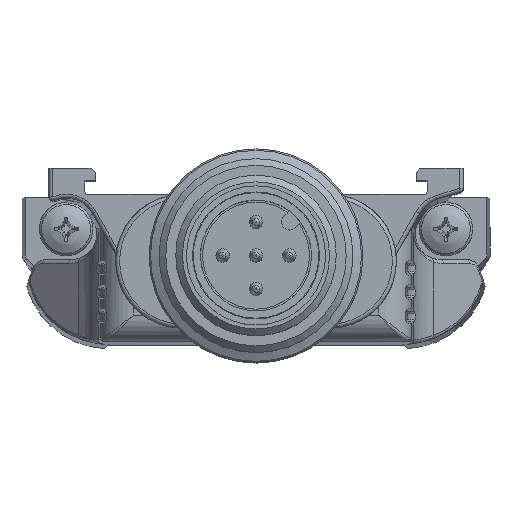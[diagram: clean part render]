
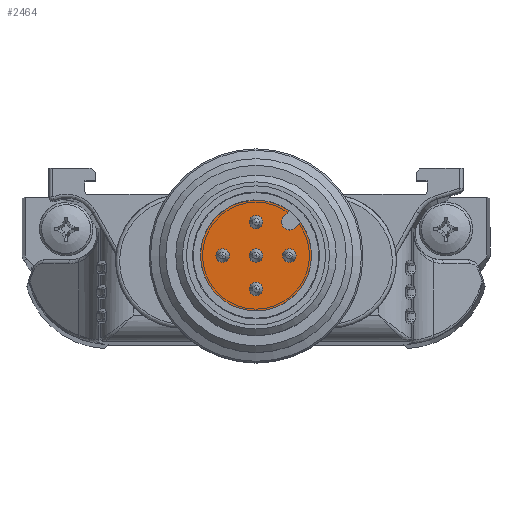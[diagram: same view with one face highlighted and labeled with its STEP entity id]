
A CAD part, top view. The second image highlights one B-rep face of the part: STEP entity #2464.
In plain terms, the highlighted planar face has unit normal (0, 0, 1) as drawn and (0, 0, -1) by its records, which use the part's own axes.
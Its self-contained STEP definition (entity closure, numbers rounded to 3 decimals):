
#2464=ADVANCED_FACE('',(#3345,#3346,#3347,#3348,#3349,#3350),#3056,.T.);
#3056=PLANE('',#15874);
#3345=FACE_BOUND('',#4360,.T.);
#3346=FACE_BOUND('',#4361,.T.);
#3347=FACE_BOUND('',#4362,.T.);
#3348=FACE_BOUND('',#4363,.T.);
#3349=FACE_BOUND('',#4364,.T.);
#3350=FACE_BOUND('',#4365,.T.);
#4360=EDGE_LOOP('',(#8637));
#4361=EDGE_LOOP('',(#8638));
#4362=EDGE_LOOP('',(#8639));
#4363=EDGE_LOOP('',(#8640));
#4364=EDGE_LOOP('',(#8641));
#4365=EDGE_LOOP('',(#8642,#8643,#8644,#8645));
#4673=CIRCLE('',#15867,0.5);
#4674=CIRCLE('',#15868,0.5);
#4675=CIRCLE('',#15869,0.5);
#4676=CIRCLE('',#15870,0.5);
#4677=CIRCLE('',#15871,0.5);
#4678=CIRCLE('',#15872,0.6);
#4679=CIRCLE('',#15873,4.15);
#8637=ORIENTED_EDGE('',*,*,#11899,.T.);
#8638=ORIENTED_EDGE('',*,*,#11900,.T.);
#8639=ORIENTED_EDGE('',*,*,#11901,.T.);
#8640=ORIENTED_EDGE('',*,*,#11902,.T.);
#8641=ORIENTED_EDGE('',*,*,#11903,.T.);
#8642=ORIENTED_EDGE('',*,*,#11904,.T.);
#8643=ORIENTED_EDGE('',*,*,#11905,.T.);
#8644=ORIENTED_EDGE('',*,*,#11906,.T.);
#8645=ORIENTED_EDGE('',*,*,#11907,.T.);
#9978=VERTEX_POINT('',#25126);
#9979=VERTEX_POINT('',#25128);
#9980=VERTEX_POINT('',#25130);
#9981=VERTEX_POINT('',#25132);
#9982=VERTEX_POINT('',#25134);
#9983=VERTEX_POINT('',#25136);
#9984=VERTEX_POINT('',#25137);
#9985=VERTEX_POINT('',#25139);
#9986=VERTEX_POINT('',#25141);
#11899=EDGE_CURVE('',#9978,#9978,#4673,.T.);
#11900=EDGE_CURVE('',#9979,#9979,#4674,.T.);
#11901=EDGE_CURVE('',#9980,#9980,#4675,.T.);
#11902=EDGE_CURVE('',#9981,#9981,#4676,.T.);
#11903=EDGE_CURVE('',#9982,#9982,#4677,.T.);
#11904=EDGE_CURVE('',#9983,#9984,#4678,.T.);
#11905=EDGE_CURVE('',#9984,#9985,#13318,.T.);
#11906=EDGE_CURVE('',#9985,#9986,#4679,.T.);
#11907=EDGE_CURVE('',#9986,#9983,#13319,.T.);
#13318=LINE('',#25138,#14702);
#13319=LINE('',#25142,#14703);
#14702=VECTOR('',#19656,1.);
#14703=VECTOR('',#19659,1.);
#15867=AXIS2_PLACEMENT_3D('',#25125,#19644,#19645);
#15868=AXIS2_PLACEMENT_3D('',#25127,#19646,#19647);
#15869=AXIS2_PLACEMENT_3D('',#25129,#19648,#19649);
#15870=AXIS2_PLACEMENT_3D('',#25131,#19650,#19651);
#15871=AXIS2_PLACEMENT_3D('',#25133,#19652,#19653);
#15872=AXIS2_PLACEMENT_3D('',#25135,#19654,#19655);
#15873=AXIS2_PLACEMENT_3D('',#25140,#19657,#19658);
#15874=AXIS2_PLACEMENT_3D('',#25143,#19660,#19661);
#19644=DIRECTION('',(0.,0.,1.));
#19645=DIRECTION('',(1.,0.,0.));
#19646=DIRECTION('',(0.,0.,1.));
#19647=DIRECTION('',(1.,0.,0.));
#19648=DIRECTION('',(0.,0.,1.));
#19649=DIRECTION('',(1.,0.,0.));
#19650=DIRECTION('',(0.,0.,1.));
#19651=DIRECTION('',(1.,0.,0.));
#19652=DIRECTION('',(0.,0.,1.));
#19653=DIRECTION('',(1.,0.,0.));
#19654=DIRECTION('',(0.,0.,1.));
#19655=DIRECTION('',(1.,0.,0.));
#19656=DIRECTION('',(0.707,-0.707,0.));
#19657=DIRECTION('',(0.,0.,-1.));
#19658=DIRECTION('',(1.,0.,0.));
#19659=DIRECTION('',(-0.707,0.707,0.));
#19660=DIRECTION('',(0.,0.,-1.));
#19661=DIRECTION('',(-1.,0.,0.));
#25125=CARTESIAN_POINT('',(40.437,-26.131,8.));
#25126=CARTESIAN_POINT('',(40.937,-26.131,8.));
#25127=CARTESIAN_POINT('',(37.937,-28.631,8.));
#25128=CARTESIAN_POINT('',(38.437,-28.631,8.));
#25129=CARTESIAN_POINT('',(42.937,-28.631,8.));
#25130=CARTESIAN_POINT('',(43.437,-28.631,8.));
#25131=CARTESIAN_POINT('',(40.437,-31.131,8.));
#25132=CARTESIAN_POINT('',(40.937,-31.131,8.));
#25133=CARTESIAN_POINT('',(40.437,-28.631,8.));
#25134=CARTESIAN_POINT('',(40.937,-28.631,8.));
#25135=CARTESIAN_POINT('',(42.947,-31.141,8.));
#25136=CARTESIAN_POINT('',(43.371,-30.717,8.));
#25137=CARTESIAN_POINT('',(42.523,-31.565,8.));
#25138=CARTESIAN_POINT('',(42.523,-31.565,8.));
#25139=CARTESIAN_POINT('',(42.916,-31.959,8.));
#25140=CARTESIAN_POINT('',(40.437,-28.631,8.));
#25141=CARTESIAN_POINT('',(43.765,-31.11,8.));
#25142=CARTESIAN_POINT('',(43.765,-31.11,8.));
#25143=CARTESIAN_POINT('',(40.437,-28.631,8.));
